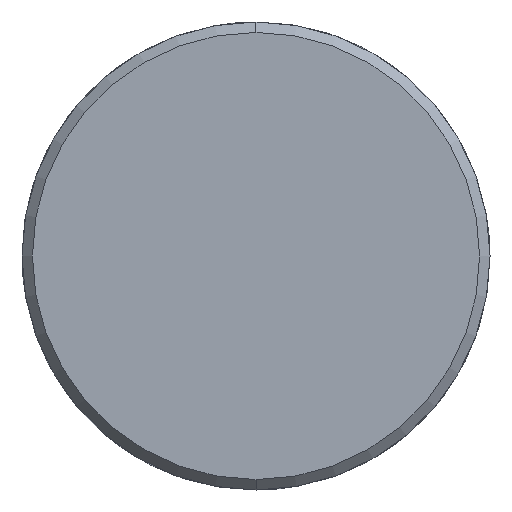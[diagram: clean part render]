
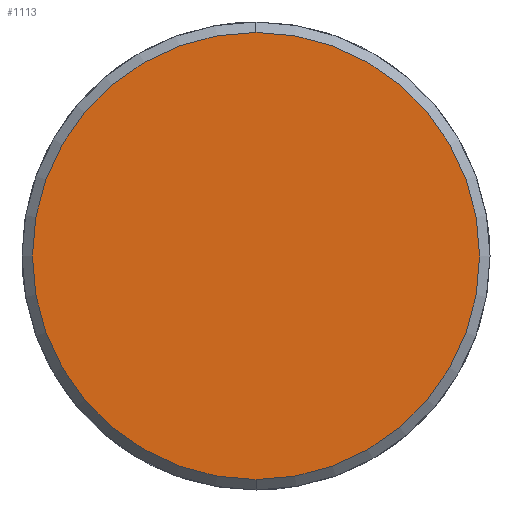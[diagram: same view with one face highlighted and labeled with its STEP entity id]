
A CAD part, left-side view. The second image highlights one B-rep face of the part: STEP entity #1113.
In plain terms, the highlighted planar face has unit normal (-1, 0, 0).
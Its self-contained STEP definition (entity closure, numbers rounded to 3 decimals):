
#1045=CARTESIAN_POINT('Vertex',(-7.,0.,-21.5)) ;
#1048=CARTESIAN_POINT('Axis2P3D Location',(-7.,0.,0.)) ;
#1052=CARTESIAN_POINT('Vertex',(-7.,21.5,0.)) ;
#1055=CARTESIAN_POINT('Axis2P3D Location',(-7.,0.,0.)) ;
#1059=CARTESIAN_POINT('Vertex',(-7.,0.,21.5)) ;
#1081=CARTESIAN_POINT('Axis2P3D Location',(-7.,0.,0.)) ;
#1085=CARTESIAN_POINT('Vertex',(-7.,-21.5,0.)) ;
#1088=CARTESIAN_POINT('Axis2P3D Location',(-7.,0.,0.)) ;
#1102=CARTESIAN_POINT('Axis2P3D Location',(-7.,0.,0.)) ;
#1049=DIRECTION('Axis2P3D Direction',(1.,0.,-0.)) ;
#1056=DIRECTION('Axis2P3D Direction',(1.,0.,-0.)) ;
#1082=DIRECTION('Axis2P3D Direction',(1.,0.,-0.)) ;
#1089=DIRECTION('Axis2P3D Direction',(1.,0.,-0.)) ;
#1103=DIRECTION('Axis2P3D Direction',(1.,0.,-0.)) ;
#1104=DIRECTION('Axis2P3D XDirection',(-0.,0.,-1.)) ;
#1050=AXIS2_PLACEMENT_3D('Circle Axis2P3D',#1048,#1049,$) ;
#1057=AXIS2_PLACEMENT_3D('Circle Axis2P3D',#1055,#1056,$) ;
#1083=AXIS2_PLACEMENT_3D('Circle Axis2P3D',#1081,#1082,$) ;
#1090=AXIS2_PLACEMENT_3D('Circle Axis2P3D',#1088,#1089,$) ;
#1105=AXIS2_PLACEMENT_3D('Plane Axis2P3D',#1102,#1103,#1104) ;
#1108=ORIENTED_EDGE('',*,*,#1054,.F.) ;
#1109=ORIENTED_EDGE('',*,*,#1092,.F.) ;
#1110=ORIENTED_EDGE('',*,*,#1087,.F.) ;
#1111=ORIENTED_EDGE('',*,*,#1061,.F.) ;
#1113=ADVANCED_FACE('351-32X66X120',(#1112),#1106,.F.) ;
#1051=CIRCLE('generated circle',#1050,21.5) ;
#1058=CIRCLE('generated circle',#1057,21.5) ;
#1084=CIRCLE('generated circle',#1083,21.5) ;
#1091=CIRCLE('generated circle',#1090,21.5) ;
#1054=EDGE_CURVE('',#1046,#1053,#1051,.T.) ;
#1061=EDGE_CURVE('',#1053,#1060,#1058,.T.) ;
#1087=EDGE_CURVE('',#1060,#1086,#1084,.T.) ;
#1092=EDGE_CURVE('',#1086,#1046,#1091,.T.) ;
#1107=EDGE_LOOP('',(#1108,#1109,#1110,#1111)) ;
#1112=FACE_OUTER_BOUND('',#1107,.T.) ;
#1106=PLANE('Plane',#1105) ;
#1046=VERTEX_POINT('',#1045) ;
#1053=VERTEX_POINT('',#1052) ;
#1060=VERTEX_POINT('',#1059) ;
#1086=VERTEX_POINT('',#1085) ;
